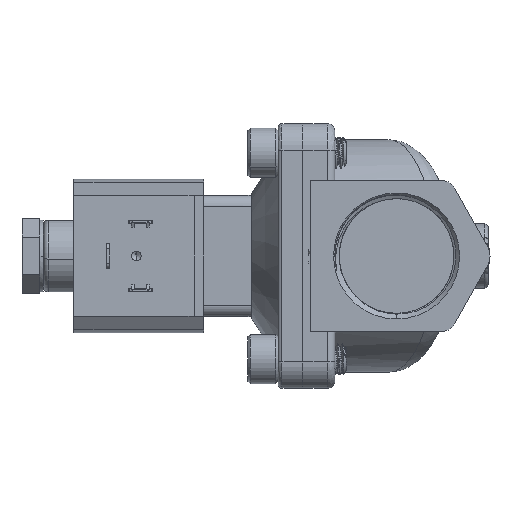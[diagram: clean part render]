
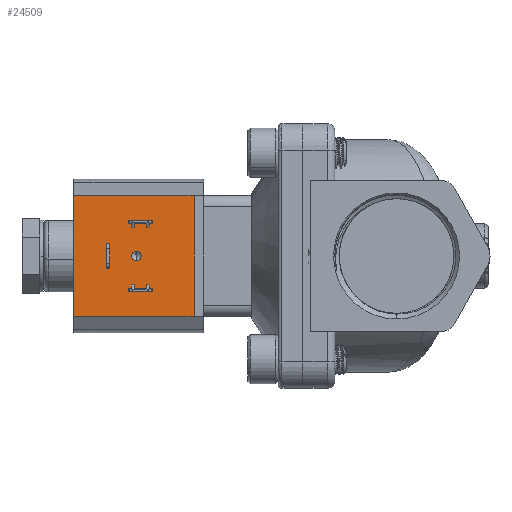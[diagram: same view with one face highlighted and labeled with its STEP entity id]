
A CAD part, left-side view. The second image highlights one B-rep face of the part: STEP entity #24509.
In plain terms, the highlighted planar face has unit normal (-1, 0, 0).
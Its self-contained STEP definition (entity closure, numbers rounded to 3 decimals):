
#115 = VERTEX_POINT ( 'NONE', #4771 ) ;
#744 = CARTESIAN_POINT ( 'NONE',  ( 2.057, 51.829, 3.213 ) ) ;
#814 = ORIENTED_EDGE ( 'NONE', *, *, #23445, .T. ) ;
#905 = EDGE_CURVE ( 'NONE', #24063, #24570, #21757, .T. ) ;
#1384 = CARTESIAN_POINT ( 'NONE',  ( 2.057, 60.49, -15.875 ) ) ;
#1462 = CARTESIAN_POINT ( 'NONE',  ( 2.057, 39.764, 8.611 ) ) ;
#1756 = CARTESIAN_POINT ( 'NONE',  ( 2.057, 28.74, -15.875 ) ) ;
#2051 = VECTOR ( 'NONE', #23004, 1000. ) ;
#3114 = ORIENTED_EDGE ( 'NONE', *, *, #11681, .T. ) ;
#3406 = VERTEX_POINT ( 'NONE', #3610 ) ;
#3440 = CARTESIAN_POINT ( 'NONE',  ( 2.057, 46.114, -9.423 ) ) ;
#3610 = CARTESIAN_POINT ( 'NONE',  ( 2.057, 39.764, -9.423 ) ) ;
#3645 = CARTESIAN_POINT ( 'NONE',  ( 2.057, 39.764, -8.611 ) ) ;
#3673 = CIRCLE ( 'NONE', #20261, 1.264 ) ;
#3675 = CARTESIAN_POINT ( 'NONE',  ( 2.057, 28.74, 15.875 ) ) ;
#3752 = VECTOR ( 'NONE', #5518, 1000. ) ;
#4339 = CARTESIAN_POINT ( 'NONE',  ( 2.057, 43.965, -1.264 ) ) ;
#4452 = CARTESIAN_POINT ( 'NONE',  ( 2.057, 39.764, 9.423 ) ) ;
#4505 = CARTESIAN_POINT ( 'NONE',  ( 2.057, 43.965, 1.264 ) ) ;
#4771 = CARTESIAN_POINT ( 'NONE',  ( 2.057, 46.114, 8.611 ) ) ;
#4817 = CARTESIAN_POINT ( 'NONE',  ( 2.057, 28.74, 15.875 ) ) ;
#4951 = CARTESIAN_POINT ( 'NONE',  ( 2.057, 43.965, 0. ) ) ;
#4992 = VERTEX_POINT ( 'NONE', #14125 ) ;
#4997 = DIRECTION ( 'NONE',  ( 0., -1., 0. ) ) ;
#5117 = ORIENTED_EDGE ( 'NONE', *, *, #8436, .F. ) ;
#5184 = ORIENTED_EDGE ( 'NONE', *, *, #5551, .T. ) ;
#5190 = LINE ( 'NONE', #12748, #17405 ) ;
#5205 = VERTEX_POINT ( 'NONE', #23195 ) ;
#5258 = LINE ( 'NONE', #23345, #6128 ) ;
#5271 = ORIENTED_EDGE ( 'NONE', *, *, #17715, .T. ) ;
#5336 = DIRECTION ( 'NONE',  ( -1., 0., 0. ) ) ;
#5394 = DIRECTION ( 'NONE',  ( 0., 0., 1. ) ) ;
#5410 = ORIENTED_EDGE ( 'NONE', *, *, #22359, .F. ) ;
#5518 = DIRECTION ( 'NONE',  ( 0., -1., 0. ) ) ;
#5523 = CARTESIAN_POINT ( 'NONE',  ( 2.057, 46.114, -9.423 ) ) ;
#5551 = EDGE_CURVE ( 'NONE', #12151, #5205, #22854, .T. ) ;
#5694 = CARTESIAN_POINT ( 'NONE',  ( 2.057, 28.74, -15.875 ) ) ;
#5753 = AXIS2_PLACEMENT_3D ( 'NONE', #15981, #14028, #16356 ) ;
#5812 = LINE ( 'NONE', #1384, #24036 ) ;
#6038 = LINE ( 'NONE', #23462, #22279 ) ;
#6128 = VECTOR ( 'NONE', #5394, 1000. ) ;
#6217 = FACE_BOUND ( 'NONE', #23962, .T. ) ;
#6309 = ORIENTED_EDGE ( 'NONE', *, *, #21276, .F. ) ;
#6562 = VECTOR ( 'NONE', #8804, 1000. ) ;
#6749 = EDGE_CURVE ( 'NONE', #19304, #13234, #12172, .T. ) ;
#7021 = ORIENTED_EDGE ( 'NONE', *, *, #16828, .F. ) ;
#7036 = CARTESIAN_POINT ( 'NONE',  ( 2.057, 51.016, -3.213 ) ) ;
#7038 = VECTOR ( 'NONE', #7549, 1000. ) ;
#7549 = DIRECTION ( 'NONE',  ( 0., 0., 1. ) ) ;
#7550 = CARTESIAN_POINT ( 'NONE',  ( 2.057, 28.74, -15.875 ) ) ;
#8037 = PLANE ( 'NONE',  #5753 ) ;
#8279 = CARTESIAN_POINT ( 'NONE',  ( 2.057, 46.114, -8.611 ) ) ;
#8436 = EDGE_CURVE ( 'NONE', #12588, #5205, #13675, .T. ) ;
#8473 = VERTEX_POINT ( 'NONE', #3645 ) ;
#8804 = DIRECTION ( 'NONE',  ( 0., -1., 0. ) ) ;
#9032 = LINE ( 'NONE', #16979, #3752 ) ;
#9296 = LINE ( 'NONE', #1756, #12019 ) ;
#9661 = EDGE_LOOP ( 'NONE', ( #12648, #5410, #814, #20838 ) ) ;
#9982 = FACE_OUTER_BOUND ( 'NONE', #9661, .T. ) ;
#9992 = ORIENTED_EDGE ( 'NONE', *, *, #905, .F. ) ;
#10076 = CARTESIAN_POINT ( 'NONE',  ( 2.057, 46.114, -9.423 ) ) ;
#10109 = FACE_BOUND ( 'NONE', #21762, .T. ) ;
#10373 = EDGE_CURVE ( 'NONE', #13234, #8473, #9032, .T. ) ;
#10557 = DIRECTION ( 'NONE',  ( 0., -1., 0. ) ) ;
#10658 = EDGE_LOOP ( 'NONE', ( #3114, #12846, #24507, #21767 ) ) ;
#10676 = LINE ( 'NONE', #4817, #24019 ) ;
#11216 = ORIENTED_EDGE ( 'NONE', *, *, #17864, .F. ) ;
#11302 = CARTESIAN_POINT ( 'NONE',  ( 2.057, 60.49, -15.875 ) ) ;
#11584 = DIRECTION ( 'NONE',  ( 0., 0., 1. ) ) ;
#11635 = DIRECTION ( 'NONE',  ( 0., 0., -1. ) ) ;
#11681 = EDGE_CURVE ( 'NONE', #12116, #12290, #18861, .T. ) ;
#12019 = VECTOR ( 'NONE', #18257, 1000. ) ;
#12116 = VERTEX_POINT ( 'NONE', #4452 ) ;
#12151 = VERTEX_POINT ( 'NONE', #18773 ) ;
#12172 = LINE ( 'NONE', #10076, #19458 ) ;
#12290 = VERTEX_POINT ( 'NONE', #1462 ) ;
#12516 = DIRECTION ( 'NONE',  ( 0., 1., 0. ) ) ;
#12525 = CARTESIAN_POINT ( 'NONE',  ( 2.057, 51.829, -3.213 ) ) ;
#12588 = VERTEX_POINT ( 'NONE', #7036 ) ;
#12648 = ORIENTED_EDGE ( 'NONE', *, *, #24922, .F. ) ;
#12748 = CARTESIAN_POINT ( 'NONE',  ( 2.057, 46.114, 8.611 ) ) ;
#12846 = ORIENTED_EDGE ( 'NONE', *, *, #22156, .F. ) ;
#13017 = CARTESIAN_POINT ( 'NONE',  ( 2.057, 39.764, 9.423 ) ) ;
#13234 = VERTEX_POINT ( 'NONE', #8279 ) ;
#13489 = ORIENTED_EDGE ( 'NONE', *, *, #10373, .T. ) ;
#13555 = VERTEX_POINT ( 'NONE', #24173 ) ;
#13675 = LINE ( 'NONE', #13927, #7038 ) ;
#13805 = LINE ( 'NONE', #7550, #21936 ) ;
#13927 = CARTESIAN_POINT ( 'NONE',  ( 2.057, 51.016, -3.213 ) ) ;
#14028 = DIRECTION ( 'NONE',  ( -1., 0., 0. ) ) ;
#14125 = CARTESIAN_POINT ( 'NONE',  ( 2.057, 51.829, -3.213 ) ) ;
#14813 = LINE ( 'NONE', #24954, #2051 ) ;
#15086 = VERTEX_POINT ( 'NONE', #5694 ) ;
#15767 = DIRECTION ( 'NONE',  ( -1., 0., 0. ) ) ;
#15827 = DIRECTION ( 'NONE',  ( 0., 0., 1. ) ) ;
#15981 = CARTESIAN_POINT ( 'NONE',  ( 2.057, 28.74, -15.875 ) ) ;
#16231 = FACE_BOUND ( 'NONE', #10658, .T. ) ;
#16356 = DIRECTION ( 'NONE',  ( 0., 0., 1. ) ) ;
#16728 = AXIS2_PLACEMENT_3D ( 'NONE', #17845, #15767, #17963 ) ;
#16828 = EDGE_CURVE ( 'NONE', #4992, #12588, #18113, .T. ) ;
#16979 = CARTESIAN_POINT ( 'NONE',  ( 2.057, 46.114, -8.611 ) ) ;
#17047 = DIRECTION ( 'NONE',  ( 0., 0., -1. ) ) ;
#17405 = VECTOR ( 'NONE', #18738, 1000. ) ;
#17715 = EDGE_CURVE ( 'NONE', #4992, #12151, #20736, .T. ) ;
#17845 = CARTESIAN_POINT ( 'NONE',  ( 2.057, 43.965, 0. ) ) ;
#17864 = EDGE_CURVE ( 'NONE', #19304, #3406, #18920, .T. ) ;
#17963 = DIRECTION ( 'NONE',  ( 0., 0., 1. ) ) ;
#17993 = EDGE_CURVE ( 'NONE', #13555, #115, #6038, .T. ) ;
#18113 = LINE ( 'NONE', #12525, #25582 ) ;
#18245 = VERTEX_POINT ( 'NONE', #25639 ) ;
#18257 = DIRECTION ( 'NONE',  ( 0., 1., 0. ) ) ;
#18407 = CARTESIAN_POINT ( 'NONE',  ( 2.057, 51.829, -3.213 ) ) ;
#18738 = DIRECTION ( 'NONE',  ( 0., -1., 0. ) ) ;
#18773 = CARTESIAN_POINT ( 'NONE',  ( 2.057, 51.829, 3.213 ) ) ;
#18861 = LINE ( 'NONE', #13017, #25373 ) ;
#18920 = LINE ( 'NONE', #3440, #23532 ) ;
#19187 = EDGE_CURVE ( 'NONE', #3406, #8473, #5258, .T. ) ;
#19304 = VERTEX_POINT ( 'NONE', #5523 ) ;
#19458 = VECTOR ( 'NONE', #15827, 1000. ) ;
#19890 = VERTEX_POINT ( 'NONE', #3675 ) ;
#20073 = EDGE_LOOP ( 'NONE', ( #21579, #11216, #25027, #13489 ) ) ;
#20261 = AXIS2_PLACEMENT_3D ( 'NONE', #4951, #5336, #21075 ) ;
#20602 = DIRECTION ( 'NONE',  ( 0., 0., 1. ) ) ;
#20736 = LINE ( 'NONE', #18407, #21436 ) ;
#20838 = ORIENTED_EDGE ( 'NONE', *, *, #21224, .T. ) ;
#21075 = DIRECTION ( 'NONE',  ( 0., 0., 1. ) ) ;
#21224 = EDGE_CURVE ( 'NONE', #19890, #18245, #10676, .T. ) ;
#21276 = EDGE_CURVE ( 'NONE', #24570, #24063, #3673, .T. ) ;
#21436 = VECTOR ( 'NONE', #20602, 1000. ) ;
#21579 = ORIENTED_EDGE ( 'NONE', *, *, #19187, .F. ) ;
#21740 = VERTEX_POINT ( 'NONE', #11302 ) ;
#21757 = CIRCLE ( 'NONE', #16728, 1.264 ) ;
#21762 = EDGE_LOOP ( 'NONE', ( #5117, #7021, #5271, #5184 ) ) ;
#21767 = ORIENTED_EDGE ( 'NONE', *, *, #23808, .T. ) ;
#21936 = VECTOR ( 'NONE', #11584, 1000. ) ;
#22156 = EDGE_CURVE ( 'NONE', #115, #12290, #5190, .T. ) ;
#22202 = FACE_BOUND ( 'NONE', #20073, .T. ) ;
#22279 = VECTOR ( 'NONE', #11635, 1000. ) ;
#22359 = EDGE_CURVE ( 'NONE', #15086, #21740, #9296, .T. ) ;
#22854 = LINE ( 'NONE', #744, #6562 ) ;
#23004 = DIRECTION ( 'NONE',  ( 0., -1., 0. ) ) ;
#23195 = CARTESIAN_POINT ( 'NONE',  ( 2.057, 51.016, 3.213 ) ) ;
#23345 = CARTESIAN_POINT ( 'NONE',  ( 2.057, 39.764, -9.423 ) ) ;
#23445 = EDGE_CURVE ( 'NONE', #15086, #19890, #13805, .T. ) ;
#23462 = CARTESIAN_POINT ( 'NONE',  ( 2.057, 46.114, 9.423 ) ) ;
#23532 = VECTOR ( 'NONE', #4997, 1000. ) ;
#23808 = EDGE_CURVE ( 'NONE', #13555, #12116, #14813, .T. ) ;
#23962 = EDGE_LOOP ( 'NONE', ( #6309, #9992 ) ) ;
#24019 = VECTOR ( 'NONE', #12516, 1000. ) ;
#24036 = VECTOR ( 'NONE', #25177, 1000. ) ;
#24063 = VERTEX_POINT ( 'NONE', #4339 ) ;
#24173 = CARTESIAN_POINT ( 'NONE',  ( 2.057, 46.114, 9.423 ) ) ;
#24507 = ORIENTED_EDGE ( 'NONE', *, *, #17993, .F. ) ;
#24509 = ADVANCED_FACE ( 'Defeatured_0_237', ( #6217, #16231, #9982, #10109, #22202 ), #8037, .T. ) ;
#24570 = VERTEX_POINT ( 'NONE', #4505 ) ;
#24922 = EDGE_CURVE ( 'NONE', #21740, #18245, #5812, .T. ) ;
#24954 = CARTESIAN_POINT ( 'NONE',  ( 2.057, 46.114, 9.423 ) ) ;
#25027 = ORIENTED_EDGE ( 'NONE', *, *, #6749, .T. ) ;
#25177 = DIRECTION ( 'NONE',  ( 0., 0., 1. ) ) ;
#25373 = VECTOR ( 'NONE', #17047, 1000. ) ;
#25582 = VECTOR ( 'NONE', #10557, 1000. ) ;
#25639 = CARTESIAN_POINT ( 'NONE',  ( 2.057, 60.49, 15.875 ) ) ;
